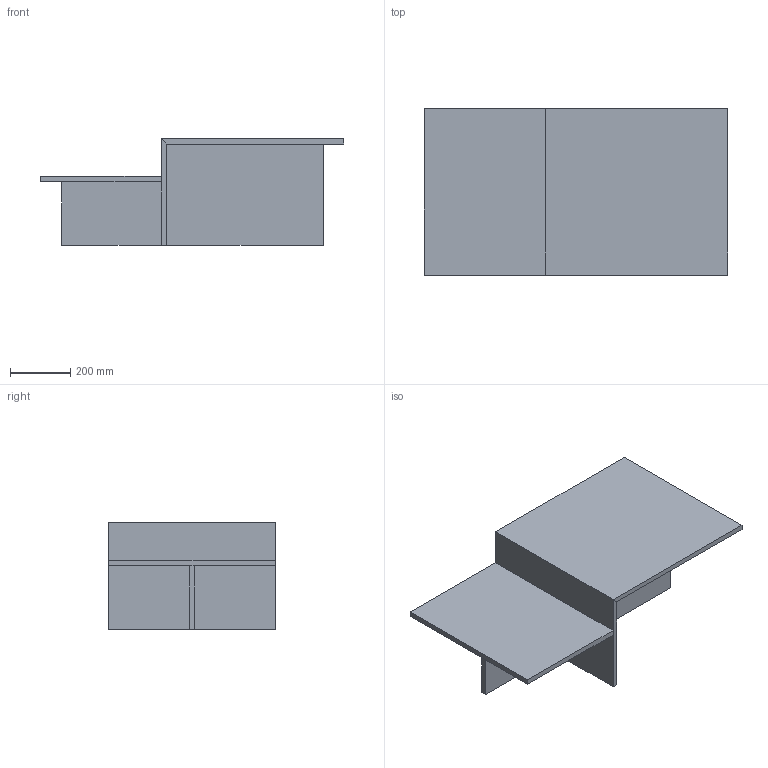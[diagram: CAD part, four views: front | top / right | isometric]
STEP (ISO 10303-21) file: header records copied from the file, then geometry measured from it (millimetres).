
FILE_DESCRIPTION(/* description */ (''),/* implementation_level */ '2;1');
FILE_NAME(/* name */ 'DWAFLN~O',/* time_stamp */ '2019-09-05T11:35:04+02:00',/* author */ (''),/* organization */ (''),/* preprocessor_version */ 'ST-DEVELOPER v16.5',/* originating_system */ '',/* authorisation */ '');
FILE_SCHEMA (('AUTOMOTIVE_DESIGN'));
Length unit declared in the file: millimetre
Products named in the file (1): Document
Bounding box: 1003.24 x 550 x 353 mm (x, y, z)
Volume: 8290272.3 mm3; surface area: 2094889.8 mm2
Topology: 3 solids, 5 shells, 28 faces, 60 edges, 40 vertices
Faces by surface type: plane 22, bspline 6
Entity records: 679 total; most frequent: CARTESIAN_POINT 209, ORIENTED_EDGE 112, EDGE_CURVE 60, B_SPLINE_CURVE_WITH_KNOTS 60, VERTEX_POINT 40, ADVANCED_FACE 28, FACE_OUTER_BOUND 28, EDGE_LOOP 28
